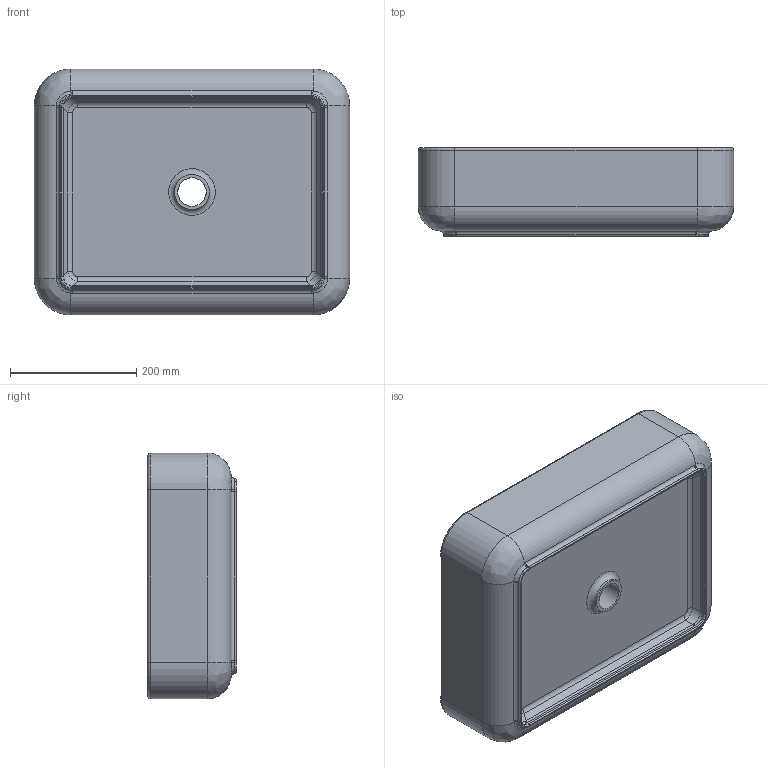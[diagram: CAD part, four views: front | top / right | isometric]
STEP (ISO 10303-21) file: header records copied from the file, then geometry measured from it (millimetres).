
FILE_DESCRIPTION(/* description */ (''),/* implementation_level */ '2;1');
FILE_NAME(/* name */ 'c:\worker\convert-fusion-r05\tmp\job-1\2\output\files\1fc98337-303f-486e-91a1-4603de193e9c\2e01db17-d493-4702-a7fa-c7c3d8ced35c.zip.stp',/* time_stamp */ '2020-07-02T11:54:24+00:00',/* author */ (''),/* organization */ (''),/* preprocessor_version */ 'ST-DEVELOPER v18.1',/* originating_system */ 'Autodesk Translation Framework v9.3.0.1241',/* authorisation */ '');
FILE_SCHEMA (('AUTOMOTIVE_DESIGN { 1 0 10303 214 3 1 1 }'));
Length unit declared in the file: millimetre
Products named in the file (1): !CORONA 500
Bounding box: 500 x 140 x 390 mm (x, y, z)
Volume: 8999820.3 mm3; surface area: 696825.3 mm2
Topology: 1 solids, 1 shells, 139 faces, 314 edges, 180 vertices
Faces by surface type: bspline 56, cylinder 50, plane 25, torus 8
Full cylindrical faces by diameter (mm): 45.16 x1, 55 x1
Entity records: 10489 total; most frequent: CARTESIAN_POINT 7642, ORIENTED_EDGE 628, DIRECTION 534, EDGE_CURVE 314, AXIS2_PLACEMENT_3D 212, VERTEX_POINT 180, EDGE_LOOP 144, FACE_OUTER_BOUND 139
